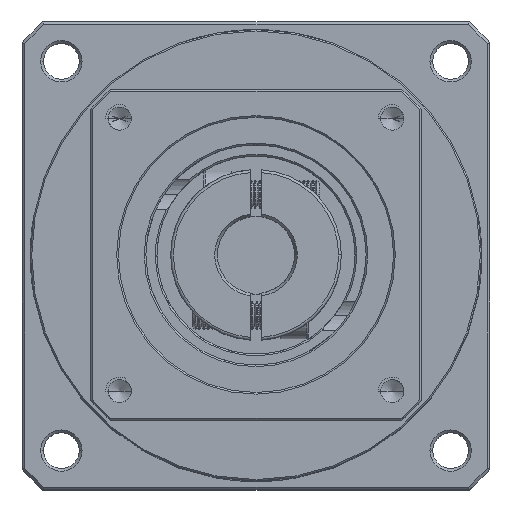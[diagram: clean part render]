
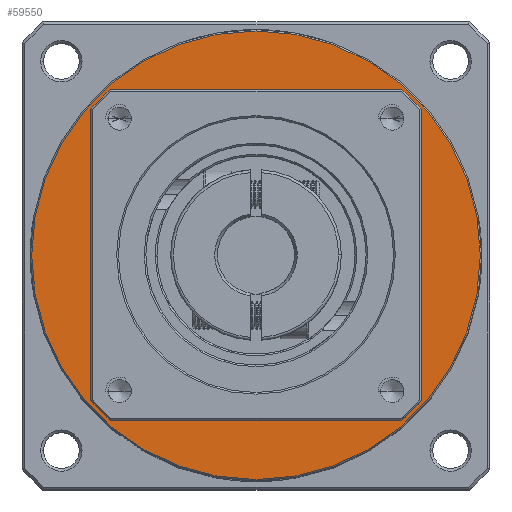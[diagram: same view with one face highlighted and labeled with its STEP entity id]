
A CAD part, top view. The second image highlights one B-rep face of the part: STEP entity #59550.
In plain terms, the highlighted planar face has unit normal (0, 0, 1).
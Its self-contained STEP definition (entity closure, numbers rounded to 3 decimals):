
#4138 = VERTEX_POINT ( 'NONE', #44131 ) ;
#8049 = ORIENTED_EDGE ( 'NONE', *, *, #110159, .F. ) ;
#8165 = ORIENTED_EDGE ( 'NONE', *, *, #109639, .T. ) ;
#8364 = CARTESIAN_POINT ( 'NONE',  ( -92.065, 48.311, 1.867 ) ) ;
#9644 = DIRECTION ( 'NONE',  ( 0., 0., 1. ) ) ;
#11270 = EDGE_LOOP ( 'NONE', ( #8049, #84780 ) ) ;
#12665 = VERTEX_POINT ( 'NONE', #43183 ) ;
#15498 = PLANE ( 'NONE',  #122183 ) ;
#19030 = DIRECTION ( 'NONE',  ( 1., 0., 0. ) ) ;
#22595 = FACE_BOUND ( 'NONE', #11270, .T. ) ;
#24107 = CARTESIAN_POINT ( 'NONE',  ( -92.065, 48.311, 1.867 ) ) ;
#25652 = CIRCLE ( 'NONE', #127464, 40.75 ) ;
#25729 = EDGE_LOOP ( 'NONE', ( #129780, #8165 ) ) ;
#31852 = DIRECTION ( 'NONE',  ( 1., 0., 0. ) ) ;
#32078 = EDGE_CURVE ( 'NONE', #59369, #12665, #25652, .T. ) ;
#38759 = DIRECTION ( 'NONE',  ( 1., 0., 0. ) ) ;
#39112 = CIRCLE ( 'NONE', #99802, 30. ) ;
#39459 = CIRCLE ( 'NONE', #40708, 40.75 ) ;
#40708 = AXIS2_PLACEMENT_3D ( 'NONE', #96928, #69241, #19030 ) ;
#40956 = CARTESIAN_POINT ( 'NONE',  ( -92.065, 48.311, 1.867 ) ) ;
#43183 = CARTESIAN_POINT ( 'NONE',  ( -51.315, 48.311, 1.867 ) ) ;
#43858 = DIRECTION ( 'NONE',  ( 1., 0., 0. ) ) ;
#44131 = CARTESIAN_POINT ( 'NONE',  ( -122.065, 48.311, 1.867 ) ) ;
#46159 = FACE_OUTER_BOUND ( 'NONE', #25729, .T. ) ;
#59369 = VERTEX_POINT ( 'NONE', #64825 ) ;
#59550 = ADVANCED_FACE ( 'NONE', ( #22595, #46159 ), #15498, .T. ) ;
#62222 = DIRECTION ( 'NONE',  ( 0., 0., 1. ) ) ;
#63079 = CARTESIAN_POINT ( 'NONE',  ( -92.065, 48.311, 1.867 ) ) ;
#64825 = CARTESIAN_POINT ( 'NONE',  ( -132.815, 48.311, 1.867 ) ) ;
#69241 = DIRECTION ( 'NONE',  ( 0., 0., 1. ) ) ;
#84780 = ORIENTED_EDGE ( 'NONE', *, *, #105821, .F. ) ;
#88883 = AXIS2_PLACEMENT_3D ( 'NONE', #8364, #9644, #110287 ) ;
#90802 = VERTEX_POINT ( 'NONE', #108414 ) ;
#96928 = CARTESIAN_POINT ( 'NONE',  ( -92.065, 48.311, 1.867 ) ) ;
#99802 = AXIS2_PLACEMENT_3D ( 'NONE', #63079, #62222, #31852 ) ;
#105821 = EDGE_CURVE ( 'NONE', #90802, #4138, #39112, .T. ) ;
#108414 = CARTESIAN_POINT ( 'NONE',  ( -62.065, 48.311, 1.867 ) ) ;
#109639 = EDGE_CURVE ( 'NONE', #12665, #59369, #39459, .T. ) ;
#110159 = EDGE_CURVE ( 'NONE', #4138, #90802, #127147, .T. ) ;
#110287 = DIRECTION ( 'NONE',  ( 1., 0., 0. ) ) ;
#112897 = DIRECTION ( 'NONE',  ( 0., 0., 1. ) ) ;
#122183 = AXIS2_PLACEMENT_3D ( 'NONE', #40956, #128298, #38759 ) ;
#127147 = CIRCLE ( 'NONE', #88883, 30. ) ;
#127464 = AXIS2_PLACEMENT_3D ( 'NONE', #24107, #112897, #43858 ) ;
#128298 = DIRECTION ( 'NONE',  ( 0., 0., 1. ) ) ;
#129780 = ORIENTED_EDGE ( 'NONE', *, *, #32078, .T. ) ;
